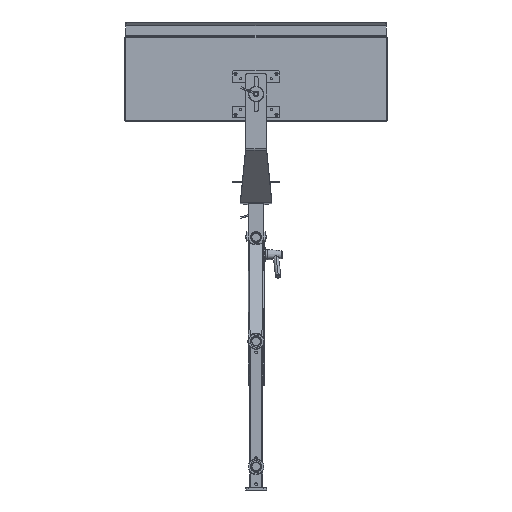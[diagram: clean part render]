
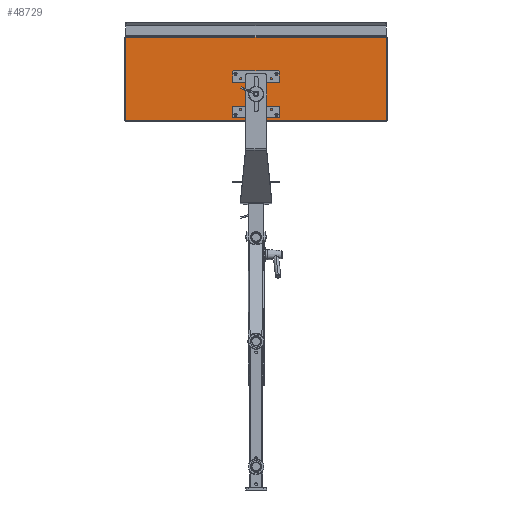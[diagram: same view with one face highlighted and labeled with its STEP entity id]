
A CAD part, front view. The second image highlights one B-rep face of the part: STEP entity #48729.
In plain terms, the highlighted planar face has unit normal (0, -1, 0.011) as drawn and (0, -1, 0) by its records, which use the part's own axes.
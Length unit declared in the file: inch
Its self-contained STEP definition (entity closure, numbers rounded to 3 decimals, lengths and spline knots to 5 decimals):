
#189 = CARTESIAN_POINT ( 'NONE',  ( 1.9685, -0.09, -3.4685 ) ) ;
#2294 = AXIS2_PLACEMENT_3D ( 'NONE', #189, #32727, #65210 ) ;
#2812 = FACE_BOUND ( 'NONE', #37017, .T. ) ;
#2915 = CARTESIAN_POINT ( 'NONE',  ( 12.5, -0.09, -4. ) ) ;
#3339 = CARTESIAN_POINT ( 'NONE',  ( 0., -0.09, 0. ) ) ;
#3580 = ORIENTED_EDGE ( 'NONE', *, *, #27479, .T. ) ;
#3893 = ORIENTED_EDGE ( 'NONE', *, *, #87799, .F. ) ;
#4014 = EDGE_CURVE ( 'NONE', #34972, #71451, #9873, .T. ) ;
#4644 = ORIENTED_EDGE ( 'NONE', *, *, #29369, .F. ) ;
#6261 = VERTEX_POINT ( 'NONE', #63644 ) ;
#6524 = EDGE_LOOP ( 'NONE', ( #57335, #84187 ) ) ;
#7334 = AXIS2_PLACEMENT_3D ( 'NONE', #79804, #31284, #37674 ) ;
#7426 = VERTEX_POINT ( 'NONE', #102636 ) ;
#7446 = DIRECTION ( 'NONE',  ( 0., 0., -1. ) ) ;
#8854 = CARTESIAN_POINT ( 'NONE',  ( 12.5, -0.09, -4. ) ) ;
#9586 = CIRCLE ( 'NONE', #57221, 0.09504 ) ;
#9873 = CIRCLE ( 'NONE', #37121, 0.09504 ) ;
#10699 = CARTESIAN_POINT ( 'NONE',  ( -1.9685, -0.09, 0.4685 ) ) ;
#12382 = FACE_BOUND ( 'NONE', #100084, .T. ) ;
#12936 = VERTEX_POINT ( 'NONE', #57345 ) ;
#19948 = DIRECTION ( 'NONE',  ( 0., 0., 1. ) ) ;
#20910 = DIRECTION ( 'NONE',  ( 0., 0., -1. ) ) ;
#21070 = VERTEX_POINT ( 'NONE', #8854 ) ;
#21464 = ORIENTED_EDGE ( 'NONE', *, *, #78276, .F. ) ;
#21879 = DIRECTION ( 'NONE',  ( -1., 0., 0. ) ) ;
#22426 = VERTEX_POINT ( 'NONE', #85223 ) ;
#23222 = CARTESIAN_POINT ( 'NONE',  ( 1.9685, -0.09, 0.37346 ) ) ;
#25166 = DIRECTION ( 'NONE',  ( 0., -1., 0. ) ) ;
#25410 = VECTOR ( 'NONE', #21879, 39.37008 ) ;
#25518 = AXIS2_PLACEMENT_3D ( 'NONE', #10699, #25166, #66179 ) ;
#26020 = VERTEX_POINT ( 'NONE', #95965 ) ;
#27479 = EDGE_CURVE ( 'NONE', #6261, #12936, #104012, .T. ) ;
#27844 = LINE ( 'NONE', #60319, #97318 ) ;
#29369 = EDGE_CURVE ( 'NONE', #21070, #26020, #27844, .T. ) ;
#29894 = ORIENTED_EDGE ( 'NONE', *, *, #33811, .F. ) ;
#30399 = AXIS2_PLACEMENT_3D ( 'NONE', #3339, #85937, #20910 ) ;
#30947 = DIRECTION ( 'NONE',  ( 0., -1., 0. ) ) ;
#31145 = CIRCLE ( 'NONE', #32881, 0.09504 ) ;
#31284 = DIRECTION ( 'NONE',  ( 0., -1., 0. ) ) ;
#32727 = DIRECTION ( 'NONE',  ( 0., -1., 0. ) ) ;
#32881 = AXIS2_PLACEMENT_3D ( 'NONE', #40181, #81204, #49210 ) ;
#33811 = EDGE_CURVE ( 'NONE', #26020, #12936, #92995, .T. ) ;
#34421 = EDGE_CURVE ( 'NONE', #22426, #85826, #68636, .T. ) ;
#34972 = VERTEX_POINT ( 'NONE', #81623 ) ;
#36682 = EDGE_CURVE ( 'NONE', #71451, #34972, #90726, .T. ) ;
#37017 = EDGE_LOOP ( 'NONE', ( #81414, #82187 ) ) ;
#37121 = AXIS2_PLACEMENT_3D ( 'NONE', #70366, #30947, #7446 ) ;
#37674 = DIRECTION ( 'NONE',  ( 0., 0., -1. ) ) ;
#40181 = CARTESIAN_POINT ( 'NONE',  ( 1.9685, -0.09, 0.4685 ) ) ;
#40577 = AXIS2_PLACEMENT_3D ( 'NONE', #70673, #85077, #102697 ) ;
#40892 = CIRCLE ( 'NONE', #25518, 0.09504 ) ;
#41376 = VECTOR ( 'NONE', #19948, 39.37008 ) ;
#42079 = EDGE_CURVE ( 'NONE', #85826, #22426, #44980, .T. ) ;
#43320 = AXIS2_PLACEMENT_3D ( 'NONE', #69824, #77817, #94363 ) ;
#44391 = PLANE ( 'NONE',  #30399 ) ;
#44498 = LINE ( 'NONE', #2915, #65358 ) ;
#44980 = CIRCLE ( 'NONE', #43320, 0.09504 ) ;
#46702 = EDGE_LOOP ( 'NONE', ( #73445, #67636 ) ) ;
#48729 = ADVANCED_FACE ( 'NONE', ( #94488, #59794, #12382, #2812, #84890 ), #44391, .T. ) ;
#49210 = DIRECTION ( 'NONE',  ( 0., 0., -1. ) ) ;
#51308 = DIRECTION ( 'NONE',  ( -1., 0., 0. ) ) ;
#55902 = VERTEX_POINT ( 'NONE', #99293 ) ;
#57221 = AXIS2_PLACEMENT_3D ( 'NONE', #81705, #105218, #104173 ) ;
#57335 = ORIENTED_EDGE ( 'NONE', *, *, #4014, .F. ) ;
#57345 = CARTESIAN_POINT ( 'NONE',  ( -12.5, -0.09, 3.968 ) ) ;
#59794 = FACE_BOUND ( 'NONE', #46702, .T. ) ;
#60319 = CARTESIAN_POINT ( 'NONE',  ( 12.5, -0.09, -4. ) ) ;
#62334 = CARTESIAN_POINT ( 'NONE',  ( 12.5, -0.09, 3.968 ) ) ;
#63644 = CARTESIAN_POINT ( 'NONE',  ( 12.5, -0.09, 3.968 ) ) ;
#65210 = DIRECTION ( 'NONE',  ( 0., 0., -1. ) ) ;
#65358 = VECTOR ( 'NONE', #68984, 39.37008 ) ;
#66179 = DIRECTION ( 'NONE',  ( 0., 0., -1. ) ) ;
#66731 = EDGE_LOOP ( 'NONE', ( #100608, #3580, #29894, #4644 ) ) ;
#67422 = CARTESIAN_POINT ( 'NONE',  ( -12.5, -0.09, -4. ) ) ;
#67627 = CARTESIAN_POINT ( 'NONE',  ( 1.9685, -0.09, 0.56354 ) ) ;
#67636 = ORIENTED_EDGE ( 'NONE', *, *, #42079, .F. ) ;
#68636 = CIRCLE ( 'NONE', #2294, 0.09504 ) ;
#68984 = DIRECTION ( 'NONE',  ( 0., 0., -1. ) ) ;
#69491 = CARTESIAN_POINT ( 'NONE',  ( 1.9685, -0.09, -3.56354 ) ) ;
#69824 = CARTESIAN_POINT ( 'NONE',  ( 1.9685, -0.09, -3.4685 ) ) ;
#70366 = CARTESIAN_POINT ( 'NONE',  ( -1.9685, -0.09, -3.4685 ) ) ;
#70673 = CARTESIAN_POINT ( 'NONE',  ( -1.9685, -0.09, 0.4685 ) ) ;
#71220 = CIRCLE ( 'NONE', #40577, 0.09504 ) ;
#71451 = VERTEX_POINT ( 'NONE', #102698 ) ;
#73311 = EDGE_CURVE ( 'NONE', #55902, #7426, #71220, .T. ) ;
#73445 = ORIENTED_EDGE ( 'NONE', *, *, #34421, .F. ) ;
#76418 = EDGE_CURVE ( 'NONE', #6261, #21070, #44498, .T. ) ;
#77817 = DIRECTION ( 'NONE',  ( 0., -1., 0. ) ) ;
#78276 = EDGE_CURVE ( 'NONE', #84282, #89671, #31145, .T. ) ;
#79804 = CARTESIAN_POINT ( 'NONE',  ( -1.9685, -0.09, -3.4685 ) ) ;
#81204 = DIRECTION ( 'NONE',  ( 0., -1., 0. ) ) ;
#81414 = ORIENTED_EDGE ( 'NONE', *, *, #73311, .F. ) ;
#81623 = CARTESIAN_POINT ( 'NONE',  ( -1.9685, -0.09, -3.37346 ) ) ;
#81705 = CARTESIAN_POINT ( 'NONE',  ( 1.9685, -0.09, 0.4685 ) ) ;
#82187 = ORIENTED_EDGE ( 'NONE', *, *, #97608, .F. ) ;
#84187 = ORIENTED_EDGE ( 'NONE', *, *, #36682, .F. ) ;
#84282 = VERTEX_POINT ( 'NONE', #67627 ) ;
#84890 = FACE_OUTER_BOUND ( 'NONE', #66731, .T. ) ;
#85077 = DIRECTION ( 'NONE',  ( 0., -1., 0. ) ) ;
#85223 = CARTESIAN_POINT ( 'NONE',  ( 1.9685, -0.09, -3.37346 ) ) ;
#85826 = VERTEX_POINT ( 'NONE', #69491 ) ;
#85937 = DIRECTION ( 'NONE',  ( 0., -1., 0. ) ) ;
#87799 = EDGE_CURVE ( 'NONE', #89671, #84282, #9586, .T. ) ;
#89671 = VERTEX_POINT ( 'NONE', #23222 ) ;
#90726 = CIRCLE ( 'NONE', #7334, 0.09504 ) ;
#92995 = LINE ( 'NONE', #67422, #41376 ) ;
#94363 = DIRECTION ( 'NONE',  ( 0., 0., -1. ) ) ;
#94488 = FACE_BOUND ( 'NONE', #6524, .T. ) ;
#95965 = CARTESIAN_POINT ( 'NONE',  ( -12.5, -0.09, -4. ) ) ;
#97318 = VECTOR ( 'NONE', #51308, 39.37008 ) ;
#97608 = EDGE_CURVE ( 'NONE', #7426, #55902, #40892, .T. ) ;
#99293 = CARTESIAN_POINT ( 'NONE',  ( -1.9685, -0.09, 0.56354 ) ) ;
#100084 = EDGE_LOOP ( 'NONE', ( #21464, #3893 ) ) ;
#100608 = ORIENTED_EDGE ( 'NONE', *, *, #76418, .F. ) ;
#102636 = CARTESIAN_POINT ( 'NONE',  ( -1.9685, -0.09, 0.37346 ) ) ;
#102697 = DIRECTION ( 'NONE',  ( 0., 0., -1. ) ) ;
#102698 = CARTESIAN_POINT ( 'NONE',  ( -1.9685, -0.09, -3.56354 ) ) ;
#104012 = LINE ( 'NONE', #62334, #25410 ) ;
#104173 = DIRECTION ( 'NONE',  ( 0., 0., -1. ) ) ;
#105218 = DIRECTION ( 'NONE',  ( 0., -1., 0. ) ) ;
